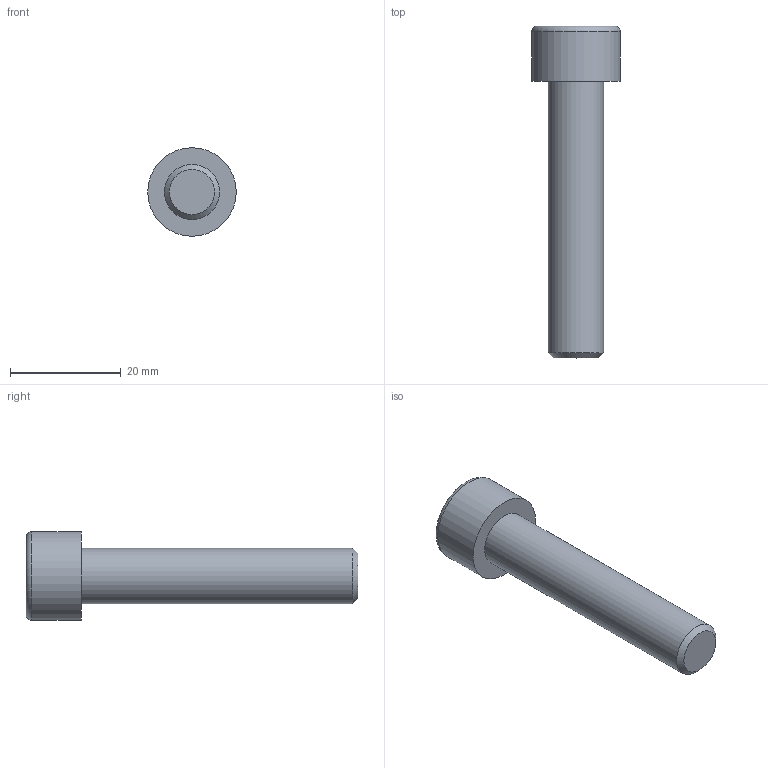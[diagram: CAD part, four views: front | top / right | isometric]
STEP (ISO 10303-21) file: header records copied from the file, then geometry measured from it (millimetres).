
FILE_DESCRIPTION(/* description */ (''),/* implementation_level */ '2;1');
FILE_NAME(/* name */ 'C:\Users\D\Documents\Inventor\各種小物\JIS\JIS B 1176 六角穴付きボルト\M10x50.stp',/* time_stamp */ '2022-05-09T18:52:11+09:00',/* author */ ('D'),/* organization */ (''),/* preprocessor_version */ 'ST-DEVELOPER v18',/* originating_system */ 'Autodesk Inventor 2020',/* authorisation */ '');
FILE_SCHEMA (('AUTOMOTIVE_DESIGN { 1 0 10303 214 3 1 1 }'));
Length unit declared in the file: millimetre
Products named in the file (1): M1.6x2.5
Bounding box: 16 x 60 x 16 mm (x, y, z)
Volume: 5579.6 mm3; surface area: 2589.2 mm2
Topology: 1 solids, 1 shells, 14 faces, 33 edges, 22 vertices
Faces by surface type: plane 9, cone 2, cylinder 2, torus 1
Full cylindrical faces by diameter (mm): 10 x1, 16 x1
Entity records: 435 total; most frequent: CARTESIAN_POINT 83, ORIENTED_EDGE 64, DIRECTION 64, EDGE_CURVE 32, AXIS2_PLACEMENT_3D 24, VERTEX_POINT 22, EDGE_LOOP 16, LINE 16
